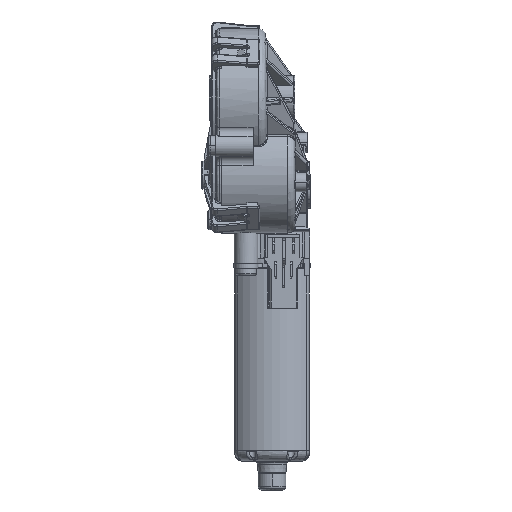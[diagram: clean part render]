
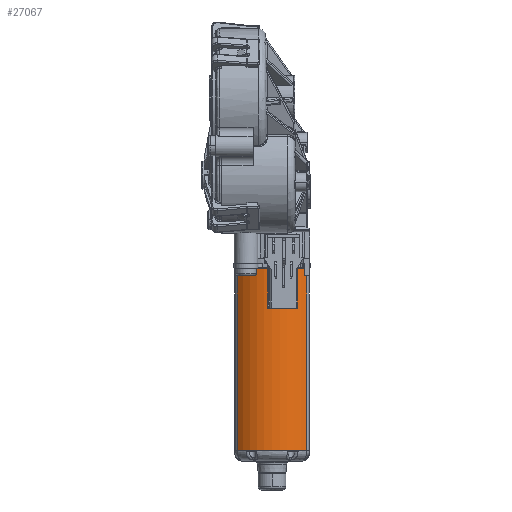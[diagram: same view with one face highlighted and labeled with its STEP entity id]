
A CAD part, front view. The second image highlights one B-rep face of the part: STEP entity #27067.
In plain terms, the highlighted cylindrical face has radius 19.525 mm (diameter 39.05 mm), a partial arc.
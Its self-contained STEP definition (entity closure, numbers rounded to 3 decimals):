
#3477=CIRCLE('',#86582,19.525);
#3478=CIRCLE('',#86583,19.525);
#27067=ADVANCED_FACE('',(#30232),#28305,.F.);
#28305=CYLINDRICAL_SURFACE('',#86584,19.525);
#30232=FACE_OUTER_BOUND('',#32551,.T.);
#32551=EDGE_LOOP('',(#48954,#48955,#48956,#48957));
#48954=ORIENTED_EDGE('',*,*,#73707,.T.);
#48955=ORIENTED_EDGE('',*,*,#73708,.T.);
#48956=ORIENTED_EDGE('',*,*,#73709,.T.);
#48957=ORIENTED_EDGE('',*,*,#73710,.T.);
#61307=VERTEX_POINT('',#171216);
#61308=VERTEX_POINT('',#171217);
#61309=VERTEX_POINT('',#171219);
#61310=VERTEX_POINT('',#171221);
#73707=EDGE_CURVE('',#61307,#61308,#3477,.T.);
#73708=EDGE_CURVE('',#61308,#61309,#79209,.T.);
#73709=EDGE_CURVE('',#61309,#61310,#3478,.T.);
#73710=EDGE_CURVE('',#61310,#61307,#79210,.T.);
#79209=LINE('',#171218,#82656);
#79210=LINE('',#171222,#82657);
#82656=VECTOR('',#96148,1.);
#82657=VECTOR('',#96151,1.);
#86582=AXIS2_PLACEMENT_3D('',#171215,#96146,#96147);
#86583=AXIS2_PLACEMENT_3D('',#171220,#96149,#96150);
#86584=AXIS2_PLACEMENT_3D('',#171223,#96152,#96153);
#96146=DIRECTION('',(0.,0.,1.));
#96147=DIRECTION('',(-1.,0.,0.));
#96148=DIRECTION('',(0.,0.,-1.));
#96149=DIRECTION('',(0.,0.,-1.));
#96150=DIRECTION('',(-1.,0.,0.));
#96151=DIRECTION('',(0.,0.,1.));
#96152=DIRECTION('',(0.,0.,-1.));
#96153=DIRECTION('',(-1.,0.,0.));
#171215=CARTESIAN_POINT('',(0.,0.,-2.2));
#171216=CARTESIAN_POINT('',(-13.839,-13.773,-2.2));
#171217=CARTESIAN_POINT('',(13.839,-13.773,-2.2));
#171218=CARTESIAN_POINT('',(13.839,-13.773,-15.774));
#171219=CARTESIAN_POINT('',(13.839,-13.773,-74.401));
#171220=CARTESIAN_POINT('',(0.,0.,-74.401));
#171221=CARTESIAN_POINT('',(-13.839,-13.773,-74.401));
#171222=CARTESIAN_POINT('',(-13.839,-13.773,-15.774));
#171223=CARTESIAN_POINT('',(0.,0.,-15.774));
